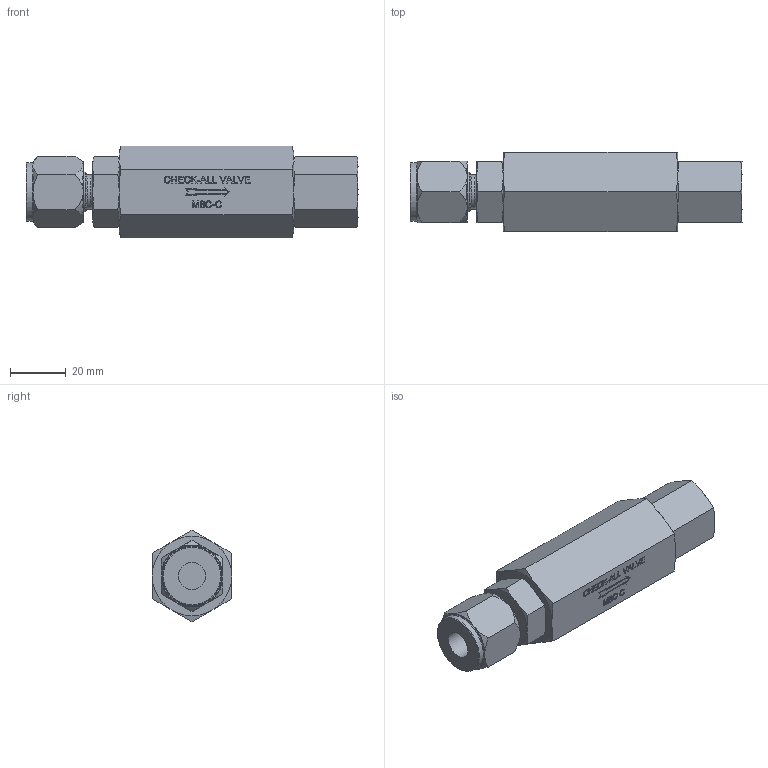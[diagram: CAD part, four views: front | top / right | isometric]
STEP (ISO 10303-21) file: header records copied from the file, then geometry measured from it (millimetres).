
FILE_DESCRIPTION( ( 'Unknown' ), '1' );
FILE_NAME( 'Y:/ENGR/3D Solid Edge Models/M(1-8)/M8/stp/M8C-C.stp', 'Unknown', ( 'Unknown' ), ( 'Unknown' ), 'PSStep 16.0.42', 'Unknown', ' ' );
FILE_SCHEMA( ( 'AUTOMOTIVE_DESIGN { 1 0 10303 214 1 1 1 1 }' ) );
Length unit declared in the file: millimetre
Products named in the file (1): 5022c (3D Model)
Bounding box: 119.53 x 28.57 x 33 mm (x, y, z)
Volume: 63047.2 mm3; surface area: 14146.7 mm2
Topology: 1 solids, 1 shells, 406 faces, 1040 edges, 644 vertices
Faces by surface type: extrusion 143, plane 82, cylinder 58, cone 54, torus 42, bspline 27
Full cylindrical faces by diameter (mm): 9.804 x1, 12.243 x1, 14.287 x1, 14.684 x5, 21.209 x1
Entity records: 20844 total; most frequent: CARTESIAN_POINT 8965, ORIENTED_EDGE 1952, DIRECTION 1375, EDGE_CURVE 976, VERTEX_POINT 626, B_SPLINE_CURVE_WITH_KNOTS 553, VECTOR 505, EDGE_LOOP 448
